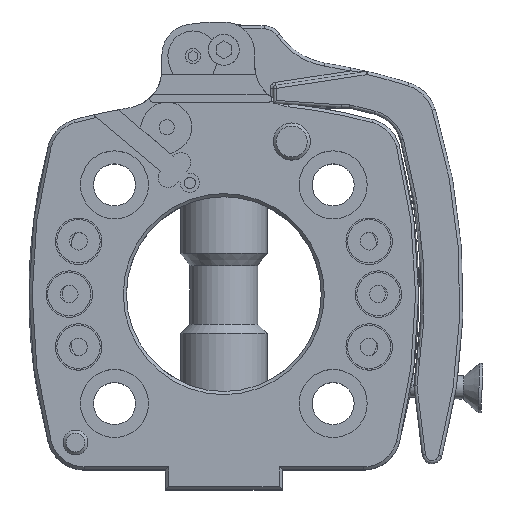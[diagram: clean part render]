
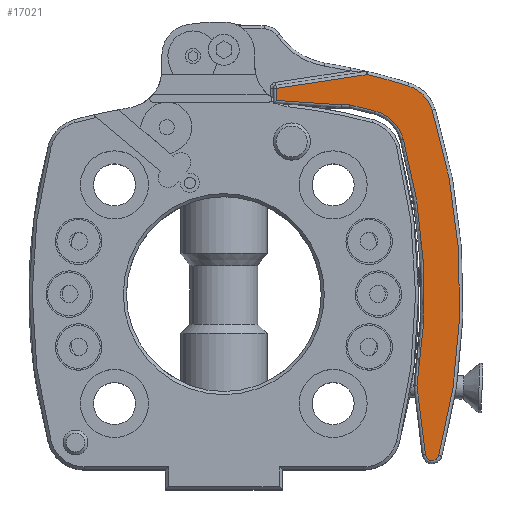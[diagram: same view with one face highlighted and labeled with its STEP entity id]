
A CAD part, top view. The second image highlights one B-rep face of the part: STEP entity #17021.
In plain terms, the highlighted planar face has unit normal (0, 0, 1).
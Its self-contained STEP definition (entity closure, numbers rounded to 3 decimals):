
#54 = VERTEX_POINT ( 'NONE', #765 ) ;
#91 = ORIENTED_EDGE ( 'NONE', *, *, #2916, .T. ) ;
#365 = VECTOR ( 'NONE', #12664, 1000. ) ;
#412 = DIRECTION ( 'NONE',  ( 0.122, -0.993, 0. ) ) ;
#532 = CARTESIAN_POINT ( 'NONE',  ( 34.749, -26.109, -14.5 ) ) ;
#564 = EDGE_CURVE ( 'NONE', #11274, #19583, #15847, .T. ) ;
#765 = CARTESIAN_POINT ( 'NONE',  ( 19.017, 30.6, -14.5 ) ) ;
#1322 = CARTESIAN_POINT ( 'NONE',  ( 31.23, -14.839, -14.5 ) ) ;
#1359 = VERTEX_POINT ( 'NONE', #12717 ) ;
#1508 = ORIENTED_EDGE ( 'NONE', *, *, #18580, .T. ) ;
#1777 = CIRCLE ( 'NONE', #7572, 95.1 ) ;
#1926 = AXIS2_PLACEMENT_3D ( 'NONE', #17798, #9323, #21324 ) ;
#2028 = VERTEX_POINT ( 'NONE', #1322 ) ;
#2198 = LINE ( 'NONE', #11103, #8544 ) ;
#2263 = DIRECTION ( 'NONE',  ( 1., 0., 0. ) ) ;
#2582 = DIRECTION ( 'NONE',  ( 0., 0., -1. ) ) ;
#2916 = EDGE_CURVE ( 'NONE', #8258, #11274, #18314, .T. ) ;
#2952 = CARTESIAN_POINT ( 'NONE',  ( -62.3, 0., -14.5 ) ) ;
#3058 = VERTEX_POINT ( 'NONE', #532 ) ;
#3725 = CARTESIAN_POINT ( 'NONE',  ( 29.743, 33.698, -14.5 ) ) ;
#3959 = AXIS2_PLACEMENT_3D ( 'NONE', #12758, #19482, #2263 ) ;
#3979 = EDGE_CURVE ( 'NONE', #20009, #8331, #1777, .T. ) ;
#4523 = LINE ( 'NONE', #9718, #14674 ) ;
#5258 = CARTESIAN_POINT ( 'NONE',  ( 29.028, 25.046, -14.5 ) ) ;
#5737 = CIRCLE ( 'NONE', #17228, 6.5 ) ;
#5918 = CIRCLE ( 'NONE', #1926, 1.1 ) ;
#5961 = EDGE_CURVE ( 'NONE', #54, #20009, #4523, .T. ) ;
#6100 = CIRCLE ( 'NONE', #3959, 6. ) ;
#6238 = VERTEX_POINT ( 'NONE', #5258 ) ;
#6314 = DIRECTION ( 'NONE',  ( 0., 0., 1. ) ) ;
#7032 = CARTESIAN_POINT ( 'NONE',  ( 23.157, 35.496, -14.5 ) ) ;
#7441 = CARTESIAN_POINT ( 'NONE',  ( -62.3, 0., -14.5 ) ) ;
#7572 = AXIS2_PLACEMENT_3D ( 'NONE', #16218, #2582, #18037 ) ;
#8258 = VERTEX_POINT ( 'NONE', #3725 ) ;
#8331 = VERTEX_POINT ( 'NONE', #9012 ) ;
#8528 = CIRCLE ( 'NONE', #12871, 100.5 ) ;
#8537 = CARTESIAN_POINT ( 'NONE',  ( 0., -62.3, -14.5 ) ) ;
#8544 = VECTOR ( 'NONE', #9071, 1000. ) ;
#8579 = AXIS2_PLACEMENT_3D ( 'NONE', #8537, #20453, #18913 ) ;
#8882 = AXIS2_PLACEMENT_3D ( 'NONE', #2952, #6314, #11625 ) ;
#9012 = CARTESIAN_POINT ( 'NONE',  ( 24.429, 29.609, -14.5 ) ) ;
#9016 = EDGE_LOOP ( 'NONE', ( #14888, #12764, #11741, #1508, #14876, #14921, #17899, #19971, #13822, #91, #17121, #15579 ) ) ;
#9071 = DIRECTION ( 'NONE',  ( 0.998, -0.068, 0. ) ) ;
#9323 = DIRECTION ( 'NONE',  ( 0., 0., 1. ) ) ;
#9392 = DIRECTION ( 'NONE',  ( 1., 0., 0. ) ) ;
#9436 = CARTESIAN_POINT ( 'NONE',  ( 8.5, 33.27, -14.5 ) ) ;
#9718 = CARTESIAN_POINT ( 'NONE',  ( 20.283, 30.6, -14.5 ) ) ;
#10111 = AXIS2_PLACEMENT_3D ( 'NONE', #15360, #22165, #13912 ) ;
#10671 = CARTESIAN_POINT ( 'NONE',  ( 8.075, 33.206, -14.5 ) ) ;
#10862 = LINE ( 'NONE', #16017, #365 ) ;
#11103 = CARTESIAN_POINT ( 'NONE',  ( 19.034, 30.599, -14.5 ) ) ;
#11274 = VERTEX_POINT ( 'NONE', #7032 ) ;
#11282 = EDGE_CURVE ( 'NONE', #6238, #2028, #11544, .T. ) ;
#11544 = CIRCLE ( 'NONE', #10111, 94.7 ) ;
#11625 = DIRECTION ( 'NONE',  ( 1., 0., 0. ) ) ;
#11741 = ORIENTED_EDGE ( 'NONE', *, *, #3979, .T. ) ;
#12313 = DIRECTION ( 'NONE',  ( 0., 0., 1. ) ) ;
#12664 = DIRECTION ( 'NONE',  ( 0., -1., 0. ) ) ;
#12717 = CARTESIAN_POINT ( 'NONE',  ( 32.595, -25.957, -14.5 ) ) ;
#12758 = CARTESIAN_POINT ( 'NONE',  ( 27.967, 27.967, -14.5 ) ) ;
#12764 = ORIENTED_EDGE ( 'NONE', *, *, #5961, .T. ) ;
#12871 = AXIS2_PLACEMENT_3D ( 'NONE', #7441, #12313, #15902 ) ;
#13822 = ORIENTED_EDGE ( 'NONE', *, *, #21204, .T. ) ;
#13877 = CARTESIAN_POINT ( 'NONE',  ( 33.698, 29.743, -14.5 ) ) ;
#13912 = DIRECTION ( 'NONE',  ( 1., 0., 0. ) ) ;
#13929 = VERTEX_POINT ( 'NONE', #13877 ) ;
#14182 = DIRECTION ( 'NONE',  ( 1., 0., 0. ) ) ;
#14296 = CARTESIAN_POINT ( 'NONE',  ( 32.595, -25.957, -14.5 ) ) ;
#14424 = LINE ( 'NONE', #14296, #15003 ) ;
#14674 = VECTOR ( 'NONE', #9392, 1000. ) ;
#14803 = DIRECTION ( 'NONE',  ( -0.989, -0.15, 0. ) ) ;
#14876 = ORIENTED_EDGE ( 'NONE', *, *, #11282, .T. ) ;
#14888 = ORIENTED_EDGE ( 'NONE', *, *, #17503, .T. ) ;
#14921 = ORIENTED_EDGE ( 'NONE', *, *, #15433, .T. ) ;
#15003 = VECTOR ( 'NONE', #412, 1000. ) ;
#15360 = CARTESIAN_POINT ( 'NONE',  ( -62.3, 0., -14.5 ) ) ;
#15433 = EDGE_CURVE ( 'NONE', #2028, #1359, #14424, .T. ) ;
#15579 = ORIENTED_EDGE ( 'NONE', *, *, #21261, .T. ) ;
#15643 = VERTEX_POINT ( 'NONE', #19096 ) ;
#15796 = VECTOR ( 'NONE', #14803, 1000. ) ;
#15847 = LINE ( 'NONE', #10671, #15796 ) ;
#15902 = DIRECTION ( 'NONE',  ( 1., 0., 0. ) ) ;
#16017 = CARTESIAN_POINT ( 'NONE',  ( 8.5, 30.85, -14.5 ) ) ;
#16218 = CARTESIAN_POINT ( 'NONE',  ( 0., -62.3, -14.5 ) ) ;
#16290 = DIRECTION ( 'NONE',  ( 0., 0., -1. ) ) ;
#16582 = FACE_OUTER_BOUND ( 'NONE', #9016, .T. ) ;
#17021 = ADVANCED_FACE ( 'NONE', ( #16582 ), #21792, .T. ) ;
#17121 = ORIENTED_EDGE ( 'NONE', *, *, #564, .T. ) ;
#17203 = EDGE_CURVE ( 'NONE', #3058, #13929, #8528, .T. ) ;
#17228 = AXIS2_PLACEMENT_3D ( 'NONE', #19305, #16290, #14182 ) ;
#17503 = EDGE_CURVE ( 'NONE', #15643, #54, #2198, .T. ) ;
#17798 = CARTESIAN_POINT ( 'NONE',  ( 33.687, -25.823, -14.5 ) ) ;
#17899 = ORIENTED_EDGE ( 'NONE', *, *, #21855, .T. ) ;
#18037 = DIRECTION ( 'NONE',  ( 1., 0., 0. ) ) ;
#18314 = CIRCLE ( 'NONE', #8579, 100.5 ) ;
#18580 = EDGE_CURVE ( 'NONE', #8331, #6238, #5737, .T. ) ;
#18913 = DIRECTION ( 'NONE',  ( 1., 0., 0. ) ) ;
#19096 = CARTESIAN_POINT ( 'NONE',  ( 8.5, 31.317, -14.5 ) ) ;
#19305 = CARTESIAN_POINT ( 'NONE',  ( 22.759, 23.327, -14.5 ) ) ;
#19482 = DIRECTION ( 'NONE',  ( 0., 0., 1. ) ) ;
#19583 = VERTEX_POINT ( 'NONE', #9436 ) ;
#19815 = CARTESIAN_POINT ( 'NONE',  ( 20.337, 30.6, -14.5 ) ) ;
#19971 = ORIENTED_EDGE ( 'NONE', *, *, #17203, .T. ) ;
#20009 = VERTEX_POINT ( 'NONE', #19815 ) ;
#20453 = DIRECTION ( 'NONE',  ( 0., 0., 1. ) ) ;
#21204 = EDGE_CURVE ( 'NONE', #13929, #8258, #6100, .T. ) ;
#21261 = EDGE_CURVE ( 'NONE', #19583, #15643, #10862, .T. ) ;
#21324 = DIRECTION ( 'NONE',  ( 1., 0., 0. ) ) ;
#21792 = PLANE ( 'NONE',  #8882 ) ;
#21855 = EDGE_CURVE ( 'NONE', #1359, #3058, #5918, .T. ) ;
#22165 = DIRECTION ( 'NONE',  ( 0., 0., -1. ) ) ;
